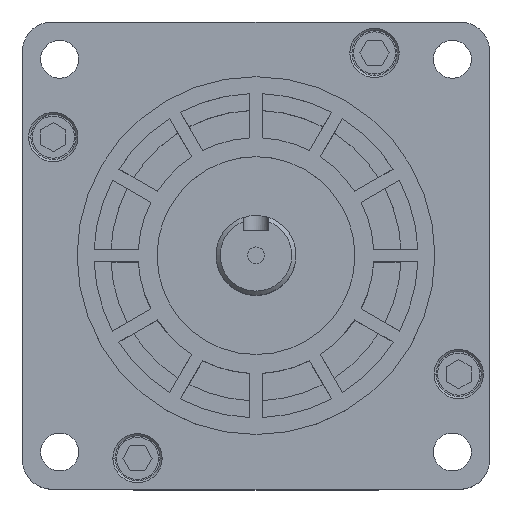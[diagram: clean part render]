
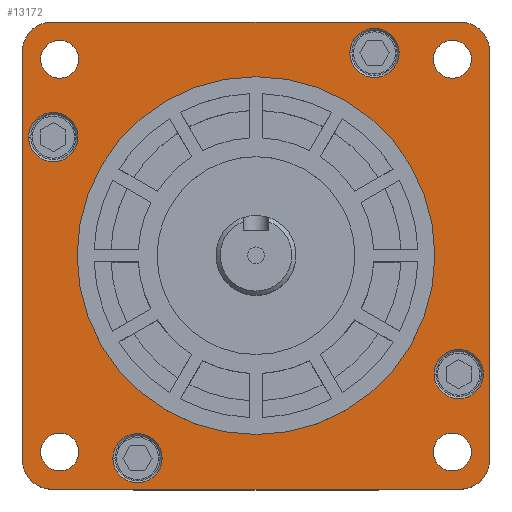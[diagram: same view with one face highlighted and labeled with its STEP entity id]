
A CAD part, top view. The second image highlights one B-rep face of the part: STEP entity #13172.
In plain terms, the highlighted planar face has unit normal (0, 0, 1).
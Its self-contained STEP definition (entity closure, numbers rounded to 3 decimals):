
#1836=DIRECTION('',(1.,0.,0.));
#1837=VECTOR('',#1836,97.);
#1838=CARTESIAN_POINT('',(-150.914,-12.082,0.));
#1839=LINE('',#1838,#1837);
#1876=DIRECTION('',(0.,-1.,0.));
#1877=VECTOR('',#1876,97.);
#1878=CARTESIAN_POINT('',(-157.914,91.918,0.));
#1879=LINE('',#1878,#1877);
#2230=DIRECTION('',(1.,0.,0.));
#2231=VECTOR('',#2230,97.);
#2232=CARTESIAN_POINT('',(-150.914,98.918,0.));
#2233=LINE('',#2232,#2231);
#2234=CARTESIAN_POINT('',(-53.914,91.918,0.));
#2235=DIRECTION('',(0.,0.,-1.));
#2236=DIRECTION('',(0.,1.,0.));
#2237=AXIS2_PLACEMENT_3D('',#2234,#2235,#2236);
#2239=DIRECTION('',(0.,-1.,0.));
#2240=VECTOR('',#2239,97.);
#2241=CARTESIAN_POINT('',(-46.914,91.918,0.));
#2242=LINE('',#2241,#2240);
#2243=CARTESIAN_POINT('',(-53.914,-5.082,0.));
#2244=DIRECTION('',(0.,0.,-1.));
#2245=DIRECTION('',(1.,0.,0.));
#2246=AXIS2_PLACEMENT_3D('',#2243,#2244,#2245);
#2248=CARTESIAN_POINT('',(-150.914,-5.082,0.));
#2249=DIRECTION('',(0.,0.,-1.));
#2250=DIRECTION('',(0.,-1.,0.));
#2251=AXIS2_PLACEMENT_3D('',#2248,#2249,#2250);
#2253=CARTESIAN_POINT('',(-150.914,91.918,0.));
#2254=DIRECTION('',(0.,0.,-1.));
#2255=DIRECTION('',(-1.,0.,0.));
#2256=AXIS2_PLACEMENT_3D('',#2253,#2254,#2255);
#2258=CARTESIAN_POINT('',(-102.414,43.418,0.));
#2259=DIRECTION('',(0.,0.,1.));
#2260=DIRECTION('',(-1.,0.,0.));
#2261=AXIS2_PLACEMENT_3D('',#2258,#2259,#2260);
#2263=CARTESIAN_POINT('',(-102.414,43.418,0.));
#2264=DIRECTION('',(0.,0.,1.));
#2265=DIRECTION('',(1.,0.,0.));
#2266=AXIS2_PLACEMENT_3D('',#2263,#2264,#2265);
#2268=CARTESIAN_POINT('',(-150.564,71.568,0.));
#2269=DIRECTION('',(0.,0.,1.));
#2270=DIRECTION('',(-1.,0.,0.));
#2271=AXIS2_PLACEMENT_3D('',#2268,#2269,#2270);
#2273=CARTESIAN_POINT('',(-150.564,71.568,0.));
#2274=DIRECTION('',(0.,0.,1.));
#2275=DIRECTION('',(1.,0.,0.));
#2276=AXIS2_PLACEMENT_3D('',#2273,#2274,#2275);
#2278=CARTESIAN_POINT('',(-74.264,91.568,0.));
#2279=DIRECTION('',(0.,0.,1.));
#2280=DIRECTION('',(-1.,0.,0.));
#2281=AXIS2_PLACEMENT_3D('',#2278,#2279,#2280);
#2283=CARTESIAN_POINT('',(-74.264,91.568,0.));
#2284=DIRECTION('',(0.,0.,1.));
#2285=DIRECTION('',(1.,0.,0.));
#2286=AXIS2_PLACEMENT_3D('',#2283,#2284,#2285);
#2288=CARTESIAN_POINT('',(-54.264,15.268,0.));
#2289=DIRECTION('',(0.,0.,1.));
#2290=DIRECTION('',(-1.,0.,0.));
#2291=AXIS2_PLACEMENT_3D('',#2288,#2289,#2290);
#2293=CARTESIAN_POINT('',(-54.264,15.268,0.));
#2294=DIRECTION('',(0.,0.,1.));
#2295=DIRECTION('',(1.,0.,0.));
#2296=AXIS2_PLACEMENT_3D('',#2293,#2294,#2295);
#2298=CARTESIAN_POINT('',(-130.564,-4.732,0.));
#2299=DIRECTION('',(0.,0.,1.));
#2300=DIRECTION('',(-1.,0.,0.));
#2301=AXIS2_PLACEMENT_3D('',#2298,#2299,#2300);
#2303=CARTESIAN_POINT('',(-130.564,-4.732,0.));
#2304=DIRECTION('',(0.,0.,1.));
#2305=DIRECTION('',(1.,0.,0.));
#2306=AXIS2_PLACEMENT_3D('',#2303,#2304,#2305);
#2308=CARTESIAN_POINT('',(-149.064,90.068,0.));
#2309=DIRECTION('',(0.,0.,1.));
#2310=DIRECTION('',(1.,0.,0.));
#2311=AXIS2_PLACEMENT_3D('',#2308,#2309,#2310);
#2313=CARTESIAN_POINT('',(-149.064,90.068,0.));
#2314=DIRECTION('',(0.,0.,1.));
#2315=DIRECTION('',(-1.,0.,0.));
#2316=AXIS2_PLACEMENT_3D('',#2313,#2314,#2315);
#2318=CARTESIAN_POINT('',(-55.764,90.068,0.));
#2319=DIRECTION('',(0.,0.,1.));
#2320=DIRECTION('',(1.,0.,0.));
#2321=AXIS2_PLACEMENT_3D('',#2318,#2319,#2320);
#2323=CARTESIAN_POINT('',(-55.764,90.068,0.));
#2324=DIRECTION('',(0.,0.,1.));
#2325=DIRECTION('',(-1.,0.,0.));
#2326=AXIS2_PLACEMENT_3D('',#2323,#2324,#2325);
#2328=CARTESIAN_POINT('',(-149.064,-3.232,0.));
#2329=DIRECTION('',(0.,0.,1.));
#2330=DIRECTION('',(1.,0.,0.));
#2331=AXIS2_PLACEMENT_3D('',#2328,#2329,#2330);
#2333=CARTESIAN_POINT('',(-149.064,-3.232,0.));
#2334=DIRECTION('',(0.,0.,1.));
#2335=DIRECTION('',(-1.,0.,0.));
#2336=AXIS2_PLACEMENT_3D('',#2333,#2334,#2335);
#2338=CARTESIAN_POINT('',(-55.764,-3.232,0.));
#2339=DIRECTION('',(0.,0.,1.));
#2340=DIRECTION('',(1.,0.,0.));
#2341=AXIS2_PLACEMENT_3D('',#2338,#2339,#2340);
#2343=CARTESIAN_POINT('',(-55.764,-3.232,0.));
#2344=DIRECTION('',(0.,0.,1.));
#2345=DIRECTION('',(-1.,0.,0.));
#2346=AXIS2_PLACEMENT_3D('',#2343,#2344,#2345);
#9933=CARTESIAN_POINT('',(-46.914,-5.082,0.));
#9934=VERTEX_POINT('',#9933);
#9935=CARTESIAN_POINT('',(-46.914,91.918,0.));
#9936=VERTEX_POINT('',#9935);
#9963=CARTESIAN_POINT('',(-150.914,-12.082,0.));
#9964=VERTEX_POINT('',#9963);
#9965=CARTESIAN_POINT('',(-53.914,-12.082,0.));
#9966=VERTEX_POINT('',#9965);
#9991=CARTESIAN_POINT('',(-157.914,91.918,0.));
#9992=VERTEX_POINT('',#9991);
#9993=CARTESIAN_POINT('',(-157.914,-5.082,0.));
#9994=VERTEX_POINT('',#9993);
#10043=CARTESIAN_POINT('',(-53.914,98.918,0.));
#10044=VERTEX_POINT('',#10043);
#10045=CARTESIAN_POINT('',(-150.914,98.918,0.));
#10046=VERTEX_POINT('',#10045);
#10081=CARTESIAN_POINT('',(-144.914,43.418,0.));
#10082=CARTESIAN_POINT('',(-59.914,43.418,0.));
#10083=VERTEX_POINT('',#10081);
#10084=VERTEX_POINT('',#10082);
#10085=CARTESIAN_POINT('',(-156.414,71.568,0.));
#10086=CARTESIAN_POINT('',(-144.714,71.568,0.));
#10087=VERTEX_POINT('',#10085);
#10088=VERTEX_POINT('',#10086);
#10089=CARTESIAN_POINT('',(-80.114,91.568,0.));
#10090=CARTESIAN_POINT('',(-68.414,91.568,0.));
#10091=VERTEX_POINT('',#10089);
#10092=VERTEX_POINT('',#10090);
#10093=CARTESIAN_POINT('',(-60.114,15.268,0.));
#10094=CARTESIAN_POINT('',(-48.414,15.268,0.));
#10095=VERTEX_POINT('',#10093);
#10096=VERTEX_POINT('',#10094);
#10097=CARTESIAN_POINT('',(-136.414,-4.732,0.));
#10098=CARTESIAN_POINT('',(-124.714,-4.732,0.));
#10099=VERTEX_POINT('',#10097);
#10100=VERTEX_POINT('',#10098);
#10667=CARTESIAN_POINT('',(-144.564,90.068,0.));
#10668=CARTESIAN_POINT('',(-153.564,90.068,0.));
#10669=VERTEX_POINT('',#10667);
#10670=VERTEX_POINT('',#10668);
#10671=CARTESIAN_POINT('',(-51.264,90.068,0.));
#10672=CARTESIAN_POINT('',(-60.264,90.068,0.));
#10673=VERTEX_POINT('',#10671);
#10674=VERTEX_POINT('',#10672);
#10675=CARTESIAN_POINT('',(-144.564,-3.232,0.));
#10676=CARTESIAN_POINT('',(-153.564,-3.232,0.));
#10677=VERTEX_POINT('',#10675);
#10678=VERTEX_POINT('',#10676);
#10679=CARTESIAN_POINT('',(-51.264,-3.232,0.));
#10680=CARTESIAN_POINT('',(-60.264,-3.232,0.));
#10681=VERTEX_POINT('',#10679);
#10682=VERTEX_POINT('',#10680);
#13101=CARTESIAN_POINT('',(-102.414,98.918,0.));
#13102=DIRECTION('',(0.,0.,1.));
#13103=DIRECTION('',(0.,-1.,0.));
#13104=AXIS2_PLACEMENT_3D('',#13101,#13102,#13103);
#13105=PLANE('',#13104);
#13106=ORIENTED_EDGE('',*,*,#12881,.T.);
#13108=ORIENTED_EDGE('',*,*,#13107,.T.);
#13109=ORIENTED_EDGE('',*,*,#12443,.T.);
#13111=ORIENTED_EDGE('',*,*,#13110,.T.);
#13112=ORIENTED_EDGE('',*,*,#12546,.F.);
#13114=ORIENTED_EDGE('',*,*,#13113,.T.);
#13115=ORIENTED_EDGE('',*,*,#12644,.F.);
#13117=ORIENTED_EDGE('',*,*,#13116,.T.);
#13118=EDGE_LOOP('',(#13106,#13108,#13109,#13111,#13112,#13114,#13115,#13117));
#13119=FACE_OUTER_BOUND('',#13118,.F.);
#13121=ORIENTED_EDGE('',*,*,#13120,.T.);
#13123=ORIENTED_EDGE('',*,*,#13122,.T.);
#13124=EDGE_LOOP('',(#13121,#13123));
#13125=FACE_BOUND('',#13124,.F.);
#13127=ORIENTED_EDGE('',*,*,#13126,.T.);
#13129=ORIENTED_EDGE('',*,*,#13128,.T.);
#13130=EDGE_LOOP('',(#13127,#13129));
#13131=FACE_BOUND('',#13130,.F.);
#13133=ORIENTED_EDGE('',*,*,#13132,.T.);
#13135=ORIENTED_EDGE('',*,*,#13134,.T.);
#13136=EDGE_LOOP('',(#13133,#13135));
#13137=FACE_BOUND('',#13136,.F.);
#13139=ORIENTED_EDGE('',*,*,#13138,.T.);
#13141=ORIENTED_EDGE('',*,*,#13140,.T.);
#13142=EDGE_LOOP('',(#13139,#13141));
#13143=FACE_BOUND('',#13142,.F.);
#13145=ORIENTED_EDGE('',*,*,#13144,.T.);
#13147=ORIENTED_EDGE('',*,*,#13146,.T.);
#13148=EDGE_LOOP('',(#13145,#13147));
#13149=FACE_BOUND('',#13148,.F.);
#13150=ORIENTED_EDGE('',*,*,#13081,.T.);
#13151=ORIENTED_EDGE('',*,*,#13095,.T.);
#13152=EDGE_LOOP('',(#13150,#13151));
#13153=FACE_BOUND('',#13152,.F.);
#13155=ORIENTED_EDGE('',*,*,#13154,.T.);
#13157=ORIENTED_EDGE('',*,*,#13156,.T.);
#13158=EDGE_LOOP('',(#13155,#13157));
#13159=FACE_BOUND('',#13158,.F.);
#13161=ORIENTED_EDGE('',*,*,#13160,.T.);
#13163=ORIENTED_EDGE('',*,*,#13162,.T.);
#13164=EDGE_LOOP('',(#13161,#13163));
#13165=FACE_BOUND('',#13164,.F.);
#13167=ORIENTED_EDGE('',*,*,#13166,.T.);
#13169=ORIENTED_EDGE('',*,*,#13168,.T.);
#13170=EDGE_LOOP('',(#13167,#13169));
#13171=FACE_BOUND('',#13170,.F.);
#13172=ADVANCED_FACE('',(#13119,#13125,#13131,#13137,#13143,#13149,#13153,
#13159,#13165,#13171),#13105,.T.);
#2238=CIRCLE('',#2237,7.);
#2247=CIRCLE('',#2246,7.);
#2252=CIRCLE('',#2251,7.);
#2257=CIRCLE('',#2256,7.);
#2262=CIRCLE('',#2261,42.5);
#2267=CIRCLE('',#2266,42.5);
#2272=CIRCLE('',#2271,5.85);
#2277=CIRCLE('',#2276,5.85);
#2282=CIRCLE('',#2281,5.85);
#2287=CIRCLE('',#2286,5.85);
#2292=CIRCLE('',#2291,5.85);
#2297=CIRCLE('',#2296,5.85);
#2302=CIRCLE('',#2301,5.85);
#2307=CIRCLE('',#2306,5.85);
#2312=CIRCLE('',#2311,4.5);
#2317=CIRCLE('',#2316,4.5);
#2322=CIRCLE('',#2321,4.5);
#2327=CIRCLE('',#2326,4.5);
#2332=CIRCLE('',#2331,4.5);
#2337=CIRCLE('',#2336,4.5);
#2342=CIRCLE('',#2341,4.5);
#2347=CIRCLE('',#2346,4.5);
#12443=EDGE_CURVE('',#9936,#9934,#2242,.T.);
#12546=EDGE_CURVE('',#9964,#9966,#1839,.T.);
#12644=EDGE_CURVE('',#9992,#9994,#1879,.T.);
#12881=EDGE_CURVE('',#10046,#10044,#2233,.T.);
#13081=EDGE_CURVE('',#10669,#10670,#2312,.T.);
#13095=EDGE_CURVE('',#10670,#10669,#2317,.T.);
#13107=EDGE_CURVE('',#10044,#9936,#2238,.T.);
#13110=EDGE_CURVE('',#9934,#9966,#2247,.T.);
#13113=EDGE_CURVE('',#9964,#9994,#2252,.T.);
#13116=EDGE_CURVE('',#9992,#10046,#2257,.T.);
#13120=EDGE_CURVE('',#10083,#10084,#2262,.T.);
#13122=EDGE_CURVE('',#10084,#10083,#2267,.T.);
#13126=EDGE_CURVE('',#10087,#10088,#2272,.T.);
#13128=EDGE_CURVE('',#10088,#10087,#2277,.T.);
#13132=EDGE_CURVE('',#10091,#10092,#2282,.T.);
#13134=EDGE_CURVE('',#10092,#10091,#2287,.T.);
#13138=EDGE_CURVE('',#10095,#10096,#2292,.T.);
#13140=EDGE_CURVE('',#10096,#10095,#2297,.T.);
#13144=EDGE_CURVE('',#10099,#10100,#2302,.T.);
#13146=EDGE_CURVE('',#10100,#10099,#2307,.T.);
#13154=EDGE_CURVE('',#10673,#10674,#2322,.T.);
#13156=EDGE_CURVE('',#10674,#10673,#2327,.T.);
#13160=EDGE_CURVE('',#10677,#10678,#2332,.T.);
#13162=EDGE_CURVE('',#10678,#10677,#2337,.T.);
#13166=EDGE_CURVE('',#10681,#10682,#2342,.T.);
#13168=EDGE_CURVE('',#10682,#10681,#2347,.T.);
